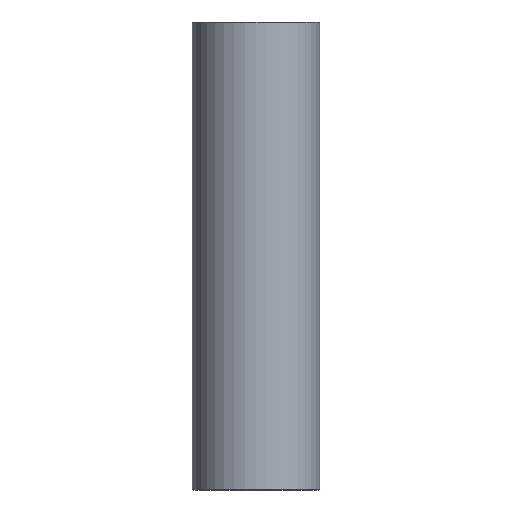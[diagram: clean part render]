
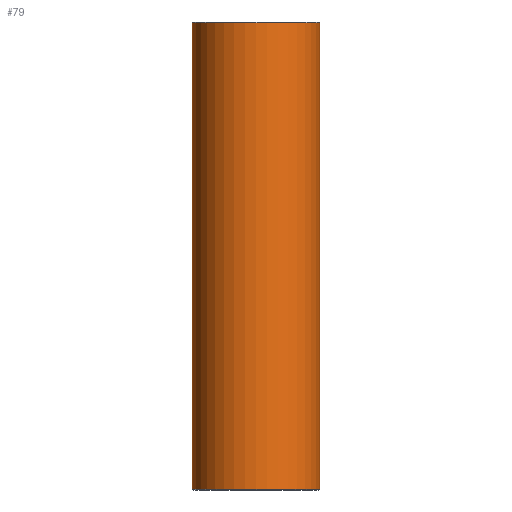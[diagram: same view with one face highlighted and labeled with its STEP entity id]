
A CAD part, front view. The second image highlights one B-rep face of the part: STEP entity #79.
In plain terms, the highlighted cylindrical face has radius 15 mm (diameter 30 mm), a full revolution.
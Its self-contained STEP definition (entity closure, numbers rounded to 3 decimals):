
#79=ADVANCED_FACE('',(#96,#97),#98,.T.);
#96=FACE_OUTER_BOUND('',#120,.T.);
#97=FACE_OUTER_BOUND('',#121,.T.);
#98=CYLINDRICAL_SURFACE('',#122,15.0);
#120=EDGE_LOOP('',(#152));
#121=EDGE_LOOP('',(#153));
#122=AXIS2_PLACEMENT_3D('',#154,#155,#156);
#152=ORIENTED_EDGE('',*,*,#178,.T.);
#153=ORIENTED_EDGE('',*,*,#177,.T.);
#154=CARTESIAN_POINT('',(0.0,0.0,110.0));
#155=DIRECTION('',(0.0,0.0,-1.0));
#156=DIRECTION('',(-1.0,0.0,0.0));
#177=EDGE_CURVE('',#190,#190,#191,.T.);
#178=EDGE_CURVE('',#192,#192,#193,.F.);
#190=VERTEX_POINT('',#206);
#191=CIRCLE('',#207,15.0);
#192=VERTEX_POINT('',#208);
#193=CIRCLE('',#209,15.0);
#206=CARTESIAN_POINT('',(15.0,0.0,0.2));
#207=AXIS2_PLACEMENT_3D('',#227,#228,#229);
#208=CARTESIAN_POINT('',(15.0,0.,109.8));
#209=AXIS2_PLACEMENT_3D('',#230,#231,#232);
#227=CARTESIAN_POINT('',(0.0,0.0,0.2));
#228=DIRECTION('',(0.0,0.0,1.0));
#229=DIRECTION('',(1.0,0.0,0.0));
#230=CARTESIAN_POINT('',(0.0,0.0,109.8));
#231=DIRECTION('',(0.0,0.0,1.0));
#232=DIRECTION('',(1.0,0.0,0.0));
